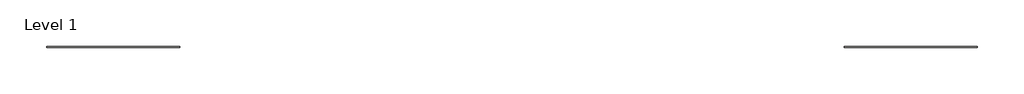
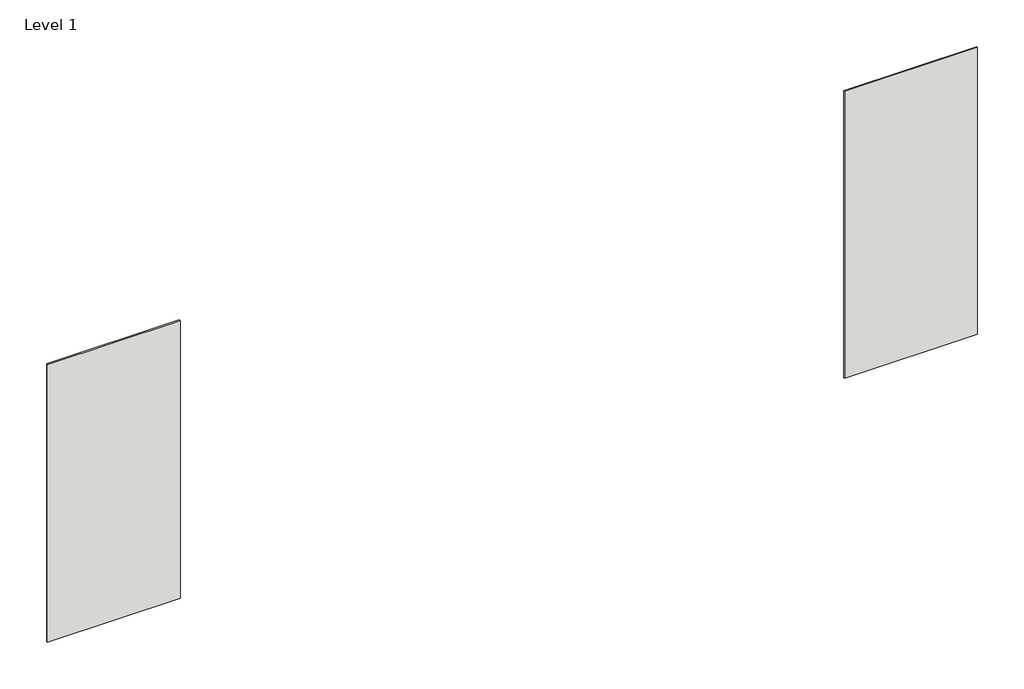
# One storey: 2 walls.
"""IFC4 building model written with IfcOpenShell, lengths in millimetres."""

from ifc_helpers import new_model, si_unit, frame, origin, place, context, project, spatial, polyline, outline, extrude, element, save

model = new_model("IFC4")

# Units and contexts
model_context = context("Model", 3, world=origin())
ifc_project = project(units=[si_unit("LENGTHUNIT", "METRE", prefix="MILLI")], contexts=[model_context])

# Site, building, storey
site = spatial("IfcSite", under=ifc_project)
building = spatial("IfcBuilding", under=site)
storey = spatial("IfcBuildingStorey", under=building, Name="Level 1", Elevation=0.0)

# Walls
placement = place(None, origin())
element("IfcWall", 1, ObjectType="Windproof 12mm 1200x2650 Fold", at=placement, inside=storey, context=model_context, shape_type="SweptSolid", body=[
    extrude(outline(polyline([(-3682.735738, -1243.2130659), (-4882.735738, -1243.2130659), (-4882.735738, -1231.2130659), (-3682.735738, -1231.2130659), (-3682.735738, -1243.2130659)])), frame((0.0, 0.0, -6000.0), z_axis=(0.0, 0.0, 1.0), x_axis=(1.0, 0.0, 0.0)), (0.0, 0.0, 1.0), 2650.0),
])
element("IfcWall", 2, ObjectType="Windproof 12mm 1200x2740 Fold", at=placement, inside=storey, context=model_context, shape_type="SweptSolid", body=[
    extrude(outline(polyline([(3517.264262, -1243.2130659), (2317.264262, -1243.2130659), (2317.264262, -1231.2130659), (3517.264262, -1231.2130659), (3517.264262, -1243.2130659)])), frame((0.0, 0.0, -6000.0), z_axis=(0.0, 0.0, 1.0), x_axis=(1.0, 0.0, 0.0)), (0.0, 0.0, 1.0), 2740.0),
])

save(model, "model.ifc")
